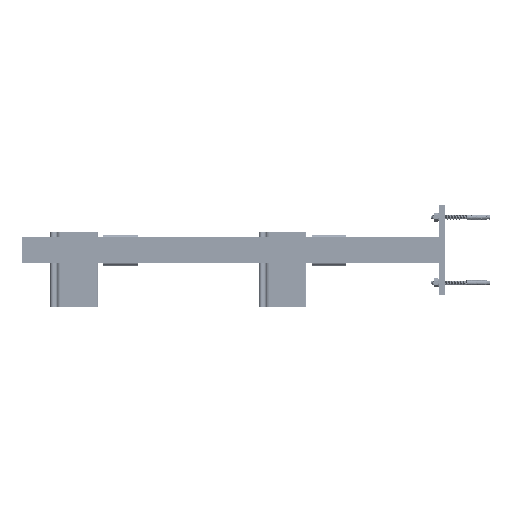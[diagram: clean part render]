
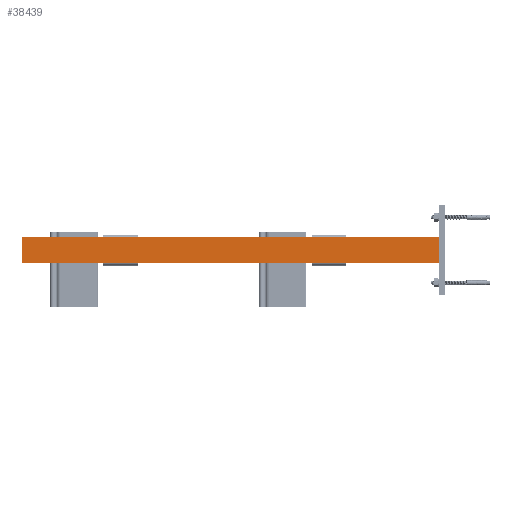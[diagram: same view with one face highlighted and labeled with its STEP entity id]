
A CAD part, left-side view. The second image highlights one B-rep face of the part: STEP entity #38439.
In plain terms, the highlighted planar face has unit normal (-1, 0, 0) as drawn and (0, -1, 0) by its records, which use the part's own axes.
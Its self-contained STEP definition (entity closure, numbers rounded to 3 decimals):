
#56 = VECTOR ( 'NONE', #4804, 1000. ) ;
#1025 = LINE ( 'NONE', #38081, #56 ) ;
#1321 = DIRECTION ( 'NONE',  ( -1., 0., 0. ) ) ;
#1794 = CARTESIAN_POINT ( 'NONE',  ( 0., -40., 21. ) ) ;
#2066 = CARTESIAN_POINT ( 'NONE',  ( 700., -40., -21. ) ) ;
#2829 = EDGE_CURVE ( 'NONE', #16924, #28747, #1025, .T. ) ;
#3693 = ORIENTED_EDGE ( 'NONE', *, *, #28917, .T. ) ;
#4804 = DIRECTION ( 'NONE',  ( -1., 0., 0. ) ) ;
#5154 = ORIENTED_EDGE ( 'NONE', *, *, #6168, .F. ) ;
#6168 = EDGE_CURVE ( 'NONE', #21640, #16924, #15595, .T. ) ;
#7285 = VECTOR ( 'NONE', #29736, 1000. ) ;
#8485 = PLANE ( 'NONE',  #34044 ) ;
#9439 = CARTESIAN_POINT ( 'NONE',  ( 0., -40., -21. ) ) ;
#9469 = VECTOR ( 'NONE', #30451, 1000. ) ;
#11524 = DIRECTION ( 'NONE',  ( 0., 1., 0. ) ) ;
#12422 = ORIENTED_EDGE ( 'NONE', *, *, #2829, .F. ) ;
#15595 = LINE ( 'NONE', #23695, #9469 ) ;
#16924 = VERTEX_POINT ( 'NONE', #2066 ) ;
#19794 = VERTEX_POINT ( 'NONE', #1794 ) ;
#21640 = VERTEX_POINT ( 'NONE', #38348 ) ;
#22422 = LINE ( 'NONE', #34458, #7285 ) ;
#22851 = ORIENTED_EDGE ( 'NONE', *, *, #37811, .T. ) ;
#22932 = LINE ( 'NONE', #37678, #30010 ) ;
#23575 = CARTESIAN_POINT ( 'NONE',  ( 700., -40., 21. ) ) ;
#23695 = CARTESIAN_POINT ( 'NONE',  ( 700., -40., 21. ) ) ;
#26666 = FACE_OUTER_BOUND ( 'NONE', #26850, .T. ) ;
#26850 = EDGE_LOOP ( 'NONE', ( #3693, #12422, #5154, #22851 ) ) ;
#28747 = VERTEX_POINT ( 'NONE', #9439 ) ;
#28917 = EDGE_CURVE ( 'NONE', #19794, #28747, #22422, .T. ) ;
#29736 = DIRECTION ( 'NONE',  ( 0., 0., -1. ) ) ;
#30010 = VECTOR ( 'NONE', #1321, 1000. ) ;
#30451 = DIRECTION ( 'NONE',  ( 0., 0., -1. ) ) ;
#32719 = DIRECTION ( 'NONE',  ( 0., 0., 1. ) ) ;
#34044 = AXIS2_PLACEMENT_3D ( 'NONE', #23575, #11524, #32719 ) ;
#34458 = CARTESIAN_POINT ( 'NONE',  ( 0., -40., 21. ) ) ;
#37678 = CARTESIAN_POINT ( 'NONE',  ( 700., -40., 21. ) ) ;
#37811 = EDGE_CURVE ( 'NONE', #21640, #19794, #22932, .T. ) ;
#38081 = CARTESIAN_POINT ( 'NONE',  ( 700., -40., -21. ) ) ;
#38348 = CARTESIAN_POINT ( 'NONE',  ( 700., -40., 21. ) ) ;
#38439 = ADVANCED_FACE ( 'NONE', ( #26666 ), #8485, .F. ) ;
